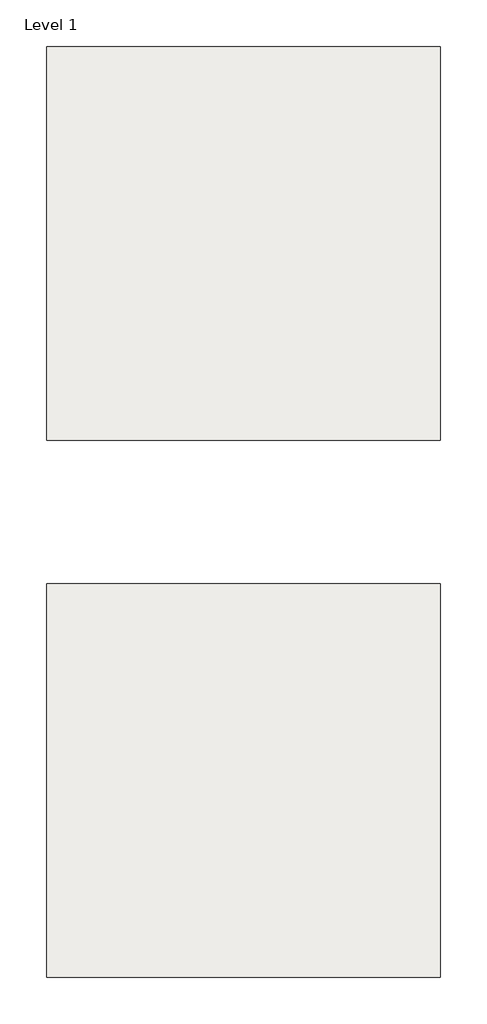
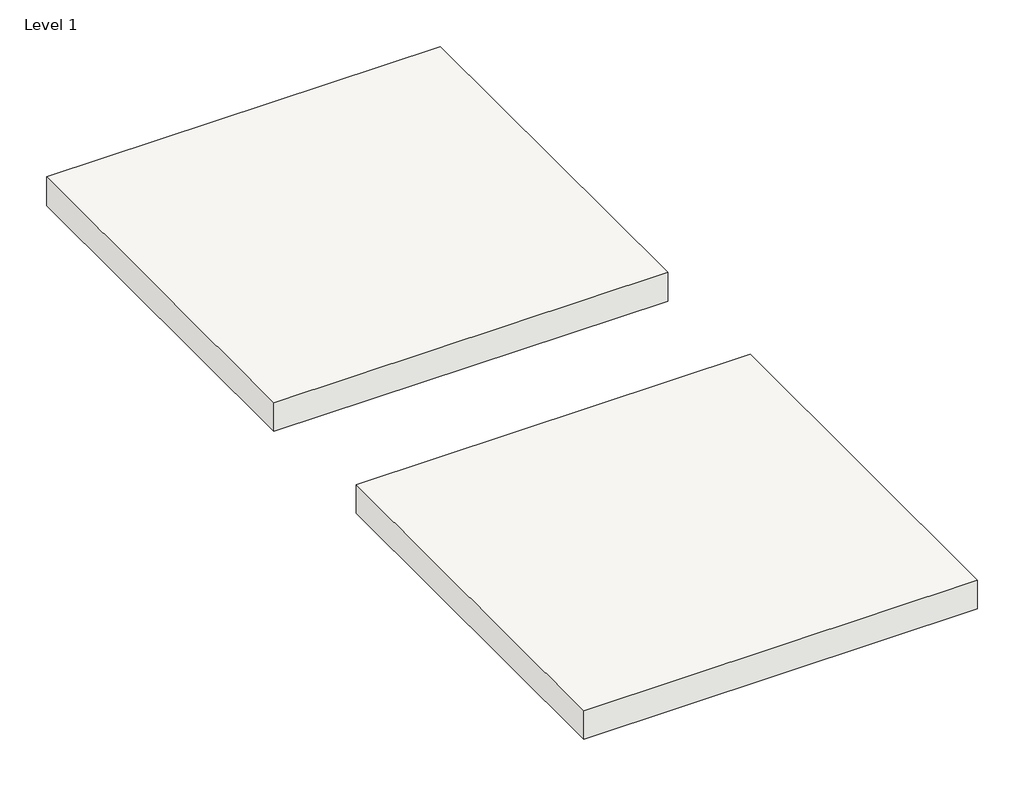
# One storey, incomplete: 2 slabs.
"""IFC4 building model written with IfcOpenShell, lengths in millimetres."""

from ifc_helpers import new_model, si_unit, frame, origin, place, context, project, spatial, polyline, outline, extrude, element, save

model = new_model("IFC4")

# Units and contexts
model_context = context("Model", 3, world=origin())
ifc_project = project(units=[si_unit("LENGTHUNIT", "METRE", prefix="MILLI")], contexts=[model_context])

# Site, building, storey
site = spatial("IfcSite", under=ifc_project)
building = spatial("IfcBuilding", under=site)
storey = spatial("IfcBuildingStorey", under=building, Name="Level 1", Elevation=0.0)

# Slabs
placement = place(None, origin())
element("IfcSlab", 1, ObjectType="RSen_23_FL_floor panels - support beams - Mezzanine U7 Standard 600x2400x38 mm_unilin", at=placement, inside=storey, context=model_context, shape_type="SweptSolid", body=[
    extrude(outline(polyline([(14020.8, 4267.2), (10668.0, 4267.2), (10668.0, 7620.0), (14020.8, 7620.0), (14020.8, 4267.2)])), frame((0.0, 0.0, -258.0), z_axis=(0.0, 0.0, 1.0), x_axis=(1.0, 0.0, 0.0)), (0.0, 0.0, 1.0), 258.0),
])
element("IfcSlab", 2, ObjectType="RSen_23_FL_floor panels - support beams - Mezzanine U7 Standard 1000x2550x38 mm_unilin", at=placement, inside=storey, context=model_context, shape_type="SweptSolid", body=[
    extrude(outline(polyline([(14020.8, 8839.2), (10668.0, 8839.2), (10668.0, 12192.0), (14020.8, 12192.0), (14020.8, 8839.2)])), frame((0.0, 0.0, -258.0), z_axis=(0.0, 0.0, 1.0), x_axis=(1.0, 0.0, 0.0)), (0.0, 0.0, 1.0), 258.0),
])

save(model, "model.ifc")
